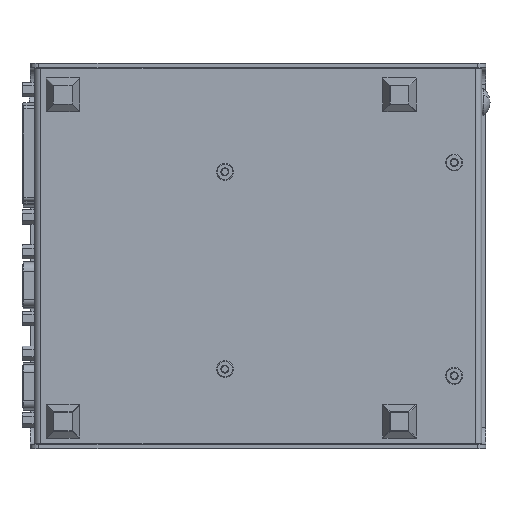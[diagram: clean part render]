
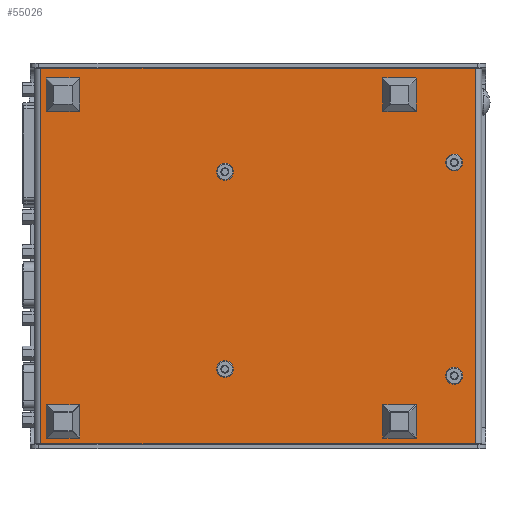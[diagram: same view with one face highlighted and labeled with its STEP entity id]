
A CAD part, front view. The second image highlights one B-rep face of the part: STEP entity #55026.
In plain terms, the highlighted planar face has unit normal (0, -1, 0).
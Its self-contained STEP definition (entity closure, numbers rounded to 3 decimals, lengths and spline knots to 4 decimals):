
#400 = CARTESIAN_POINT ( 'NONE',  ( -4.2414, -0.1721, -3.416 ) ) ;
#2004 = LINE ( 'NONE', #106630, #95451 ) ;
#2040 = DIRECTION ( 'NONE',  ( -1., 0., 0. ) ) ;
#4617 = CARTESIAN_POINT ( 'NONE',  ( 1.9566, -0.1721, 0.8182 ) ) ;
#5592 = VERTEX_POINT ( 'NONE', #27424 ) ;
#6087 = EDGE_LOOP ( 'NONE', ( #8936, #101050 ) ) ;
#6652 = VERTEX_POINT ( 'NONE', #79737 ) ;
#8211 = ORIENTED_EDGE ( 'NONE', *, *, #56878, .T. ) ;
#8230 = CARTESIAN_POINT ( 'NONE',  ( -4.1484, -0.1721, -3.416 ) ) ;
#8512 = CARTESIAN_POINT ( 'NONE',  ( 1.9566, -0.1721, -2.4144 ) ) ;
#8936 = ORIENTED_EDGE ( 'NONE', *, *, #77795, .T. ) ;
#8959 = FACE_BOUND ( 'NONE', #40986, .T. ) ;
#9202 = DIRECTION ( 'NONE',  ( 0., 0., -1. ) ) ;
#10307 = DIRECTION ( 'NONE',  ( 0., 1., 0. ) ) ;
#17234 = AXIS2_PLACEMENT_3D ( 'NONE', #52483, #113897, #61332 ) ;
#17351 = DIRECTION ( 'NONE',  ( 0., 0., 1. ) ) ;
#18096 = EDGE_CURVE ( 'NONE', #92337, #105744, #39131, .T. ) ;
#18816 = CARTESIAN_POINT ( 'NONE',  ( 1.9566, -0.1721, -2.4974 ) ) ;
#19361 = CIRCLE ( 'NONE', #62546, 0.083 ) ;
#20189 = ORIENTED_EDGE ( 'NONE', *, *, #40517, .F. ) ;
#21481 = ORIENTED_EDGE ( 'NONE', *, *, #107319, .T. ) ;
#22109 = DIRECTION ( 'NONE',  ( 0., 1., 0. ) ) ;
#23293 = VERTEX_POINT ( 'NONE', #54102 ) ;
#24165 = CARTESIAN_POINT ( 'NONE',  ( -1.4293, -0.1721, 0.5974 ) ) ;
#26891 = ORIENTED_EDGE ( 'NONE', *, *, #93914, .T. ) ;
#27424 = CARTESIAN_POINT ( 'NONE',  ( 1.9566, -0.1721, -2.3314 ) ) ;
#27996 = AXIS2_PLACEMENT_3D ( 'NONE', #102384, #49818, #111200 ) ;
#29146 = CARTESIAN_POINT ( 'NONE',  ( -1.4293, -0.1721, 0.5144 ) ) ;
#30233 = ORIENTED_EDGE ( 'NONE', *, *, #18096, .F. ) ;
#30916 = ORIENTED_EDGE ( 'NONE', *, *, #42500, .T. ) ;
#32975 = DIRECTION ( 'NONE',  ( 0., 0., 1. ) ) ;
#34107 = EDGE_LOOP ( 'NONE', ( #91898, #21481 ) ) ;
#35513 = CARTESIAN_POINT ( 'NONE',  ( 1.9566, -0.1721, 0.7352 ) ) ;
#39131 = LINE ( 'NONE', #63537, #44635 ) ;
#39718 = EDGE_CURVE ( 'NONE', #90530, #85092, #61927, .T. ) ;
#39760 = LINE ( 'NONE', #44000, #65937 ) ;
#39967 = EDGE_LOOP ( 'NONE', ( #41965, #52147 ) ) ;
#40517 = EDGE_CURVE ( 'NONE', #23293, #84181, #39760, .T. ) ;
#40715 = CIRCLE ( 'NONE', #17234, 0.083 ) ;
#40861 = EDGE_CURVE ( 'NONE', #70981, #78031, #79557, .T. ) ;
#40986 = EDGE_LOOP ( 'NONE', ( #47066, #26891 ) ) ;
#41965 = ORIENTED_EDGE ( 'NONE', *, *, #44174, .T. ) ;
#42500 = EDGE_CURVE ( 'NONE', #92337, #84181, #48959, .T. ) ;
#43316 = VERTEX_POINT ( 'NONE', #18816 ) ;
#44000 = CARTESIAN_POINT ( 'NONE',  ( -4.2414, -0.1721, 2.125 ) ) ;
#44070 = CIRCLE ( 'NONE', #27996, 0.083 ) ;
#44174 = EDGE_CURVE ( 'NONE', #5592, #43316, #44070, .T. ) ;
#44355 = DIRECTION ( 'NONE',  ( 0., 0., 1. ) ) ;
#44635 = VECTOR ( 'NONE', #2040, 39.3701 ) ;
#44880 = CIRCLE ( 'NONE', #61374, 0.083 ) ;
#45383 = CARTESIAN_POINT ( 'NONE',  ( -1.4293, -0.1721, 0.6804 ) ) ;
#45759 = DIRECTION ( 'NONE',  ( 0., 1., 0. ) ) ;
#47066 = ORIENTED_EDGE ( 'NONE', *, *, #39718, .T. ) ;
#48959 = LINE ( 'NONE', #108859, #95613 ) ;
#49818 = DIRECTION ( 'NONE',  ( 0., 1., 0. ) ) ;
#52147 = ORIENTED_EDGE ( 'NONE', *, *, #81393, .T. ) ;
#52483 = CARTESIAN_POINT ( 'NONE',  ( -1.4293, -0.1721, -2.316 ) ) ;
#53237 = DIRECTION ( 'NONE',  ( 1., 0., 0. ) ) ;
#54102 = CARTESIAN_POINT ( 'NONE',  ( -4.1484, -0.1721, 2.125 ) ) ;
#54678 = CIRCLE ( 'NONE', #69819, 0.083 ) ;
#55026 = ADVANCED_FACE ( 'NONE', ( #79126, #55800, #8959, #102469, #99727 ), #96808, .T. ) ;
#55800 = FACE_BOUND ( 'NONE', #6087, .T. ) ;
#56878 = EDGE_CURVE ( 'NONE', #23293, #105744, #2004, .T. ) ;
#57184 = AXIS2_PLACEMENT_3D ( 'NONE', #74792, #22109, #83606 ) ;
#61332 = DIRECTION ( 'NONE',  ( 0., 0., 1. ) ) ;
#61374 = AXIS2_PLACEMENT_3D ( 'NONE', #8512, #70076, #17351 ) ;
#61904 = DIRECTION ( 'NONE',  ( 0., -1., 0. ) ) ;
#61927 = CIRCLE ( 'NONE', #100586, 0.083 ) ;
#62546 = AXIS2_PLACEMENT_3D ( 'NONE', #98404, #45759, #107192 ) ;
#62986 = CARTESIAN_POINT ( 'NONE',  ( -1.4293, -0.1721, 0.5974 ) ) ;
#63081 = VERTEX_POINT ( 'NONE', #72624 ) ;
#63537 = CARTESIAN_POINT ( 'NONE',  ( -4.2414, -0.1721, -3.416 ) ) ;
#65937 = VECTOR ( 'NONE', #53237, 39.3701 ) ;
#66139 = AXIS2_PLACEMENT_3D ( 'NONE', #35513, #96981, #44355 ) ;
#66536 = CARTESIAN_POINT ( 'NONE',  ( 2.2726, -0.1721, -3.416 ) ) ;
#69819 = AXIS2_PLACEMENT_3D ( 'NONE', #62986, #10307, #71833 ) ;
#70076 = DIRECTION ( 'NONE',  ( 0., 1., 0. ) ) ;
#70981 = VERTEX_POINT ( 'NONE', #111000 ) ;
#71385 = DIRECTION ( 'NONE',  ( 0., 0., -1. ) ) ;
#71833 = DIRECTION ( 'NONE',  ( 0., 0., 1. ) ) ;
#72624 = CARTESIAN_POINT ( 'NONE',  ( -1.4293, -0.1721, -2.399 ) ) ;
#74792 = CARTESIAN_POINT ( 'NONE',  ( -1.4293, -0.1721, -2.316 ) ) ;
#75179 = CARTESIAN_POINT ( 'NONE',  ( 2.2726, -0.1721, 2.125 ) ) ;
#77795 = EDGE_CURVE ( 'NONE', #78031, #70981, #19361, .T. ) ;
#78031 = VERTEX_POINT ( 'NONE', #4617 ) ;
#79126 = FACE_BOUND ( 'NONE', #39967, .T. ) ;
#79557 = CIRCLE ( 'NONE', #66139, 0.083 ) ;
#79737 = CARTESIAN_POINT ( 'NONE',  ( -1.4293, -0.1721, -2.233 ) ) ;
#81239 = EDGE_LOOP ( 'NONE', ( #30233, #30916, #20189, #8211 ) ) ;
#81393 = EDGE_CURVE ( 'NONE', #43316, #5592, #44880, .T. ) ;
#83606 = DIRECTION ( 'NONE',  ( 0., 0., 1. ) ) ;
#84138 = EDGE_CURVE ( 'NONE', #6652, #63081, #95071, .T. ) ;
#84181 = VERTEX_POINT ( 'NONE', #75179 ) ;
#85092 = VERTEX_POINT ( 'NONE', #29146 ) ;
#85636 = DIRECTION ( 'NONE',  ( 0., 1., 0. ) ) ;
#90530 = VERTEX_POINT ( 'NONE', #45383 ) ;
#91898 = ORIENTED_EDGE ( 'NONE', *, *, #84138, .T. ) ;
#92337 = VERTEX_POINT ( 'NONE', #66536 ) ;
#93914 = EDGE_CURVE ( 'NONE', #85092, #90530, #54678, .T. ) ;
#95071 = CIRCLE ( 'NONE', #57184, 0.083 ) ;
#95451 = VECTOR ( 'NONE', #71385, 39.3701 ) ;
#95613 = VECTOR ( 'NONE', #100433, 39.3701 ) ;
#96808 = PLANE ( 'NONE',  #103227 ) ;
#96981 = DIRECTION ( 'NONE',  ( 0., 1., 0. ) ) ;
#98404 = CARTESIAN_POINT ( 'NONE',  ( 1.9566, -0.1721, 0.7352 ) ) ;
#99727 = FACE_OUTER_BOUND ( 'NONE', #81239, .T. ) ;
#100433 = DIRECTION ( 'NONE',  ( 0., 0., 1. ) ) ;
#100586 = AXIS2_PLACEMENT_3D ( 'NONE', #24165, #85636, #32975 ) ;
#101050 = ORIENTED_EDGE ( 'NONE', *, *, #40861, .T. ) ;
#102384 = CARTESIAN_POINT ( 'NONE',  ( 1.9566, -0.1721, -2.4144 ) ) ;
#102469 = FACE_BOUND ( 'NONE', #34107, .T. ) ;
#103227 = AXIS2_PLACEMENT_3D ( 'NONE', #400, #61904, #9202 ) ;
#105744 = VERTEX_POINT ( 'NONE', #8230 ) ;
#106630 = CARTESIAN_POINT ( 'NONE',  ( -4.1484, -0.1721, 2.125 ) ) ;
#107192 = DIRECTION ( 'NONE',  ( 0., 0., 1. ) ) ;
#107319 = EDGE_CURVE ( 'NONE', #63081, #6652, #40715, .T. ) ;
#108859 = CARTESIAN_POINT ( 'NONE',  ( 2.2726, -0.1721, -3.416 ) ) ;
#111000 = CARTESIAN_POINT ( 'NONE',  ( 1.9566, -0.1721, 0.6522 ) ) ;
#111200 = DIRECTION ( 'NONE',  ( 0., 0., 1. ) ) ;
#113897 = DIRECTION ( 'NONE',  ( 0., 1., 0. ) ) ;
